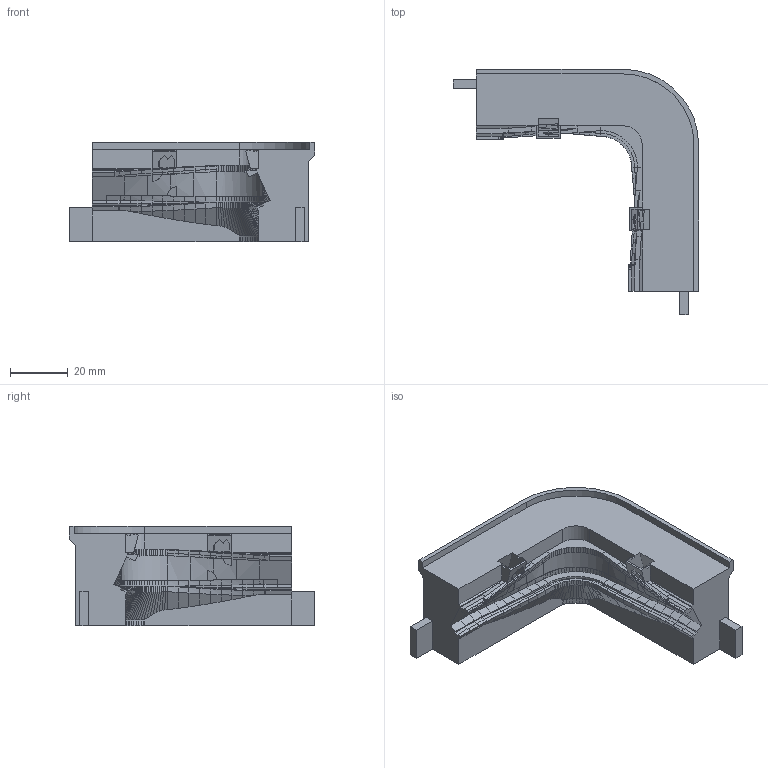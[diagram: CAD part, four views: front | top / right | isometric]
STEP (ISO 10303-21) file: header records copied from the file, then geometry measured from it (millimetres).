
FILE_DESCRIPTION(('Open CASCADE Model'),'2;1');
FILE_NAME('Open CASCADE Shape Model','2026-10-21T19:16:12',('Author'),( 'Open CASCADE'),'Open CASCADE STEP processor 8.0','build123d', 'Unknown');
FILE_SCHEMA(('AUTOMOTIVE_DESIGN { 1 0 10303 214 1 1 1 1 }'));
Products named in the file (1): SOLID
Bounding box: 85.1 x 85.1 x 34.5 mm (x, y, z)
Volume: 72193.9 mm3; surface area: 17133.9 mm2
Topology: 1 solids, 1 shells, 802 faces, 2167 edges, 1363 vertices
Faces by surface type: bspline 408, plane 373, extrusion 10, cylinder 10, cone 1
Entity records: 55895 total; most frequent: CARTESIAN_POINT 18694, DIRECTION 4588, ORIENTED_EDGE 4334, PCURVE 4334, DEFINITIONAL_REPRESENTATION 4334, VECTOR 3770, LINE 3760, B_SPLINE_CURVE_WITH_KNOTS 2713
